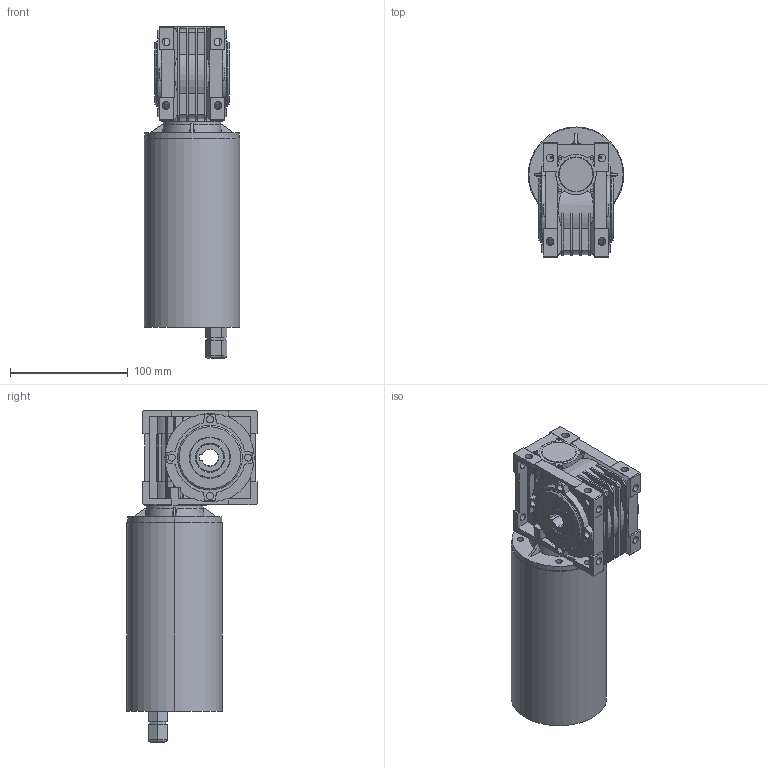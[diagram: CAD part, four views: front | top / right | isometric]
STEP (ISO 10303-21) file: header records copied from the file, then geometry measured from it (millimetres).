
FILE_DESCRIPTION (( 'STEP AP203' ), '1' );
FILE_NAME ('CMRV030-56_DC100.STEP', '2024-03-01T12:03:47', ( '' ), ( '' ), 'SwSTEP 2.0', 'SolidWorks 2021', '' );
FILE_SCHEMA (( 'CONFIG_CONTROL_DESIGN' ));
Length unit declared in the file: millimetre
Products named in the file (7): _EC100.240.66.3d.stp; 56B14____.STEP; 4.STEP; CMRV030-56B14.STEP; 1.STEP; CMRV030-56_DC100; 5.STEP
Assembly tree (6 placements, depth 3):
  CMRV030-56_DC100
    CMRV030-56B14.STEP
      1.STEP
      4.STEP
      5.STEP
      56B14____.STEP
    _EC100.240.66.3d.stp
Bounding box: 81 x 110.5 x 282 mm (x, y, z)
Volume: 1225918.8 mm3; surface area: 150587.6 mm2
Topology: 5 solids, 5 shells, 830 faces, 2215 edges, 1450 vertices
Faces by surface type: plane 458, cylinder 319, cone 53
Entity records: 27675 total; most frequent: CARTESIAN_POINT 5896, ORIENTED_EDGE 4410, DIRECTION 4387, EDGE_CURVE 2205, AXIS2_PLACEMENT_3D 1483, VERTEX_POINT 1450, LINE 1421, VECTOR 1421
